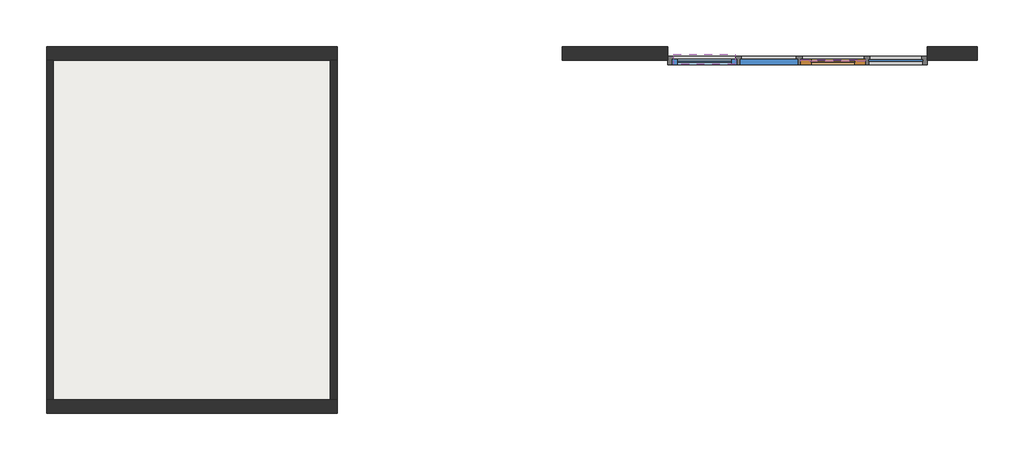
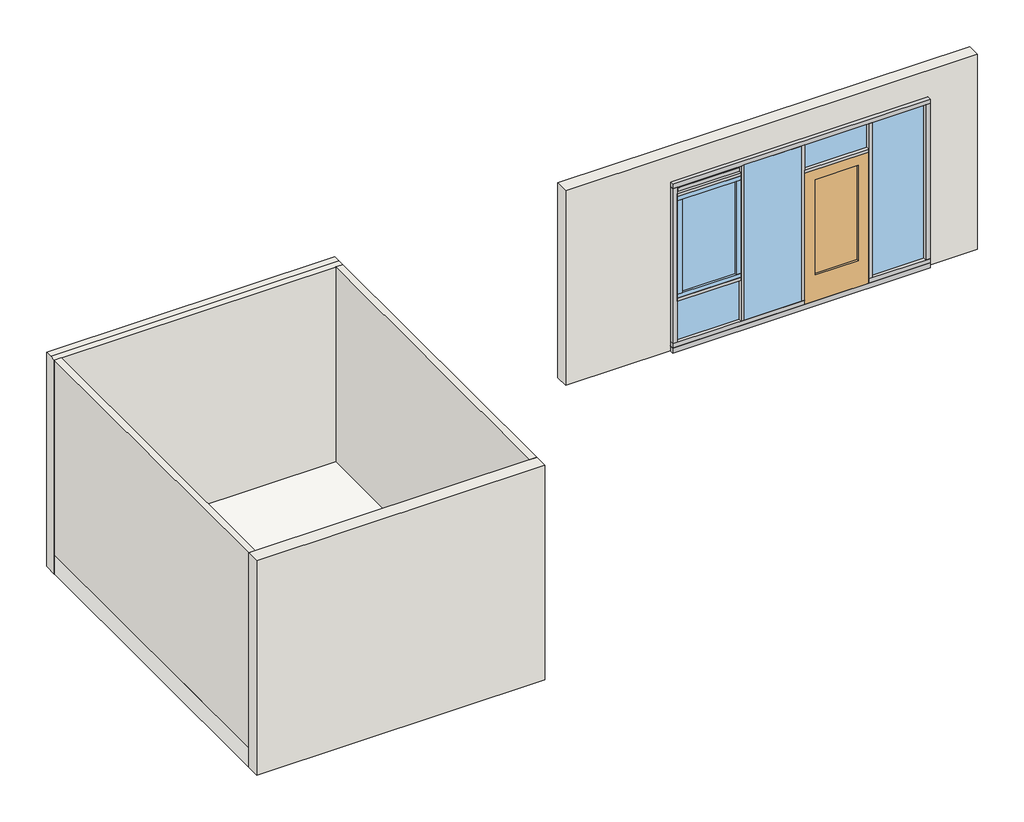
# One storey: 5 walls, 5 windows, 2 proxies, 1 air terminal, 1 door, 1 slab.
"""IFC4 building model written with IfcOpenShell, lengths in millimetres."""

from ifc_helpers import new_model, si_unit, frame, origin, origin_with_axes, place, context, project, spatial, polyline, outline, extrude, transform, mapped, element, save
from components import air_terminal_c1de08d3, generic_models_c9854ee7, buiten_c3ad88d7, door_910d5ae1, buiten_00c69137, buiten_5ce3c921, buiten_ae65a613, buiten_048b9824, links_buiten_6e9700f6

model = new_model("IFC4")

# Units and contexts
model_context = context("Model", 3, world=origin())
ifc_project = project(units=[si_unit("LENGTHUNIT", "METRE", prefix="MILLI")], contexts=[model_context])

# Site, building, storey
site = spatial("IfcSite", under=ifc_project)
building = spatial("IfcBuilding", under=site)
storey = spatial("IfcBuildingStorey", under=building, Name="00_begane grond_(AVL-BK)", Elevation=0.0)

# Air terminal
placement = place(None, origin())
air_terminal_shape = air_terminal_c1de08d3(model_context)
element("IfcAirTerminal", 1, ObjectType="RBS_57_AT_ventilatierooster_BUVA_SH : Acoustream_65", at=placement, inside=storey, context=model_context, shape_type="MappedRepresentation", body=[
    mapped(air_terminal_shape, transform((12405.0, 7417.0, 2452.7847339), x_axis=(-1.0, 0.0, 0.0), y_axis=(0.0, -1.0, 0.0), z_axis=(0.0, 0.0, 1.0))),
])

# Proxies
generic_models_shape = generic_models_c9854ee7(model_context)
element("IfcBuildingElementProxy", 2, Name="RBS_31_GM_pui_buiten_1 : pui-bxhxd=3750x2600x120", ObjectType="RBS_31_GM_pui_buiten_1 : pui-bxhxd=3750x2600x120", at=placement, inside=storey, context=model_context, shape_type="MappedRepresentation", body=[
    mapped(generic_models_shape, transform((13875.0, 7500.0, 0.0), x_axis=(-1.0, 0.0, 0.0), y_axis=(0.0, -1.0, 0.0), z_axis=(0.0, 0.0, 1.0))),
])
buiten_shape = buiten_c3ad88d7(model_context)
element("IfcBuildingElementProxy", 3, Name="RBS_3-_GM_pui_onderdorpel_SH : buiten", ObjectType="RBS_3-_GM_pui_onderdorpel_SH : buiten", at=placement, inside=storey, context=model_context, shape_type="MappedRepresentation", body=[
    mapped(buiten_shape, transform((13750.0, 7400.0, 0.0), x_axis=(-1.0, 0.0, 0.0), y_axis=(0.0, -1.0, 0.0), z_axis=(0.0, 0.0, 1.0))),
])

# Door
door_shape = door_910d5ae1(model_context)
element("IfcDoor", 4, ObjectType="RBS_31_DO_deur_buiten_stomp_glas_1_paneel_SH : linksdraaiend", at=placement, inside=storey, context=model_context, shape_type="MappedRepresentation", body=[
    mapped(door_shape, transform((14730.0, 7380.0, 80.0), x_axis=(-1.0, 0.0, 0.0), y_axis=(0.0, -1.0, 0.0), z_axis=(0.0, 0.0, 1.0))),
])

# Slab
element("IfcSlab", 5, ObjectType="RBS_23_FL_vloer_binnen_d=300", at=placement, inside=storey, context=model_context, shape_type="SweptSolid", body=[
    extrude(outline(polyline([(7100.0, 2400.0), (2900.0, 2400.0), (2900.0, 7500.0), (7100.0, 7500.0), (7100.0, 2400.0)])), frame((0.0, 0.0, -300.0), z_axis=(0.0, 0.0, 1.0), x_axis=(1.0, 0.0, 0.0)), (0.0, 0.0, 1.0), 300.0),
])

# Walls
element("IfcWall", 6, ObjectType="RBS_21_WA_wand_buiten_d=200", at=placement, inside=storey, context=model_context, shape_type="SweptSolid", body=[
    extrude(outline(polyline([(0.0, 10350.0), (0.0, 11875.0), (2600.0, 11875.0), (2600.0, 15625.0), (0.0, 15625.0), (0.0, 16350.0), (3000.0, 16350.0), (3000.0, 10350.0), (0.0, 10350.0)])), frame((0.0, 7400.0, 0.0), z_axis=(0.0, 1.0, 0.0), x_axis=(0.0, 0.0, 1.0)), (0.0, 0.0, 1.0), 200.0),
])
element("IfcWall", 7, ObjectType="RBS_21_WA_wand_buiten_d=200", at=placement, inside=storey, context=model_context, shape_type="SweptSolid", body=[
    extrude(outline(polyline([(7400.0, -300.0), (7400.0, 3000.0), (7500.0, 3000.0), (7600.0, 3000.0), (7600.0, -300.0), (7400.0, -300.0)])), frame((2900.0, 0.0, 0.0), z_axis=(1.0, 0.0, 0.0), x_axis=(0.0, 1.0, 0.0)), (0.0, 0.0, 1.0), 4200.0),
])
element("IfcWall", 8, ObjectType="RBS_22_WA_wand_binnen_d=100", at=placement, inside=storey, context=model_context, shape_type="SweptSolid", body=[
    extrude(outline(polyline([(7000.0, 2500.0), (7000.0, 7400.0), (7100.0, 7400.0), (7100.0, 2500.0), (7000.0, 2500.0)])), origin_with_axes(), (0.0, 0.0, 1.0), 3000.0),
])
element("IfcWall", 9, ObjectType="RBS_21_WA_wand_buiten_d=200", at=placement, inside=storey, context=model_context, shape_type="SweptSolid", body=[
    extrude(outline(polyline([(2900.0, 2500.0), (7100.0, 2500.0), (7100.0, 2300.0), (2900.0, 2300.0), (2900.0, 2500.0)])), frame((0.0, 0.0, -300.0), z_axis=(0.0, 0.0, 1.0), x_axis=(1.0, 0.0, 0.0)), (0.0, 0.0, 1.0), 3300.0),
])
element("IfcWall", 10, ObjectType="RBS_22_WA_wand_binnen_d=100", at=placement, inside=storey, context=model_context, shape_type="SweptSolid", body=[
    extrude(outline(polyline([(3000.0, 7400.0), (3000.0, 2500.0), (2900.0, 2500.0), (2900.0, 7400.0), (3000.0, 7400.0)])), origin_with_axes(), (0.0, 0.0, 1.0), 3000.0),
])

# Windows
buiten_2_shape = buiten_00c69137(model_context)
element("IfcWindow", 11, ObjectType="RBS_3-_WI_pui_glas_SH : buiten", at=placement, inside=storey, context=model_context, shape_type="MappedRepresentation", body=[
    mapped(buiten_2_shape, transform((15170.0, 7400.0, 145.0), x_axis=(-1.0, 0.0, 0.0), y_axis=(0.0, -1.0, 0.0), z_axis=(0.0, 0.0, 1.0))),
])
buiten_3_shape = buiten_5ce3c921(model_context)
element("IfcWindow", 12, ObjectType="RBS_3-_WI_pui_glas_SH : buiten", at=placement, inside=storey, context=model_context, shape_type="MappedRepresentation", body=[
    mapped(buiten_3_shape, transform((14265.0, 7400.0, 2145.0), x_axis=(-1.0, 0.0, 0.0), y_axis=(0.0, -1.0, 0.0), z_axis=(0.0, 0.0, 1.0))),
])
buiten_4_shape = buiten_ae65a613(model_context)
element("IfcWindow", 13, ObjectType="RBS_3-_WI_pui_paneel_SH : buiten", at=placement, inside=storey, context=model_context, shape_type="MappedRepresentation", body=[
    mapped(buiten_4_shape, transform((13335.0, 7380.0, 145.0), x_axis=(-1.0, 0.0, 0.0), y_axis=(0.0, -1.0, 0.0), z_axis=(0.0, 0.0, 1.0))),
])
buiten_5_shape = buiten_048b9824(model_context)
element("IfcWindow", 14, ObjectType="RBS_3-_WI_pui_glas_SH : buiten", at=placement, inside=storey, context=model_context, shape_type="MappedRepresentation", body=[
    mapped(buiten_5_shape, transform((12405.0, 7400.0, 145.0), x_axis=(-1.0, 0.0, 0.0), y_axis=(0.0, -1.0, 0.0), z_axis=(0.0, 0.0, 1.0))),
])
links_buiten_shape = links_buiten_6e9700f6(model_context)
element("IfcWindow", 15, ObjectType="RBS_3-_WI_raam_paneel_SH : links_buiten", at=placement, inside=storey, context=model_context, shape_type="MappedRepresentation", body=[
    mapped(links_buiten_shape, transform((12405.0, 7380.0, 825.0), x_axis=(-1.0, 0.0, 0.0), y_axis=(0.0, -1.0, 0.0), z_axis=(0.0, 0.0, 1.0))),
])

save(model, "model.ifc")
